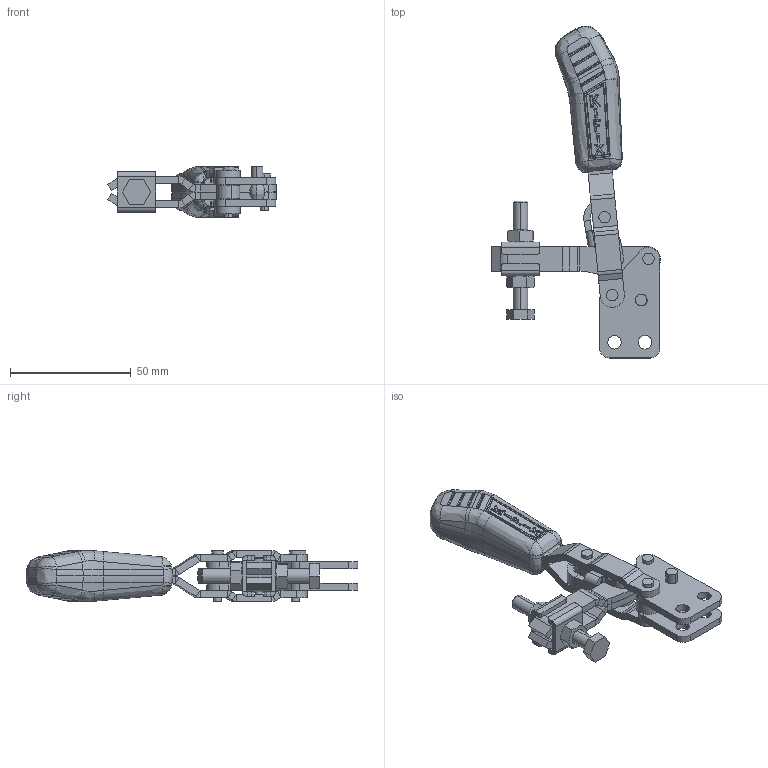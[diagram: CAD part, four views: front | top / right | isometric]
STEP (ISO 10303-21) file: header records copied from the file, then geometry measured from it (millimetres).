
FILE_DESCRIPTION (( 'STEP AP203' ), '1' );
FILE_NAME ('KF-012 RB.STEP', '2014-07-28T13:32:51', ( 'Ricardo' ), ( '' ), 'SwSTEP 2.0', 'SolidWorks 2013', '' );
FILE_SCHEMA (( 'CONFIG_CONTROL_DESIGN' ));
Length unit declared in the file: millimetre
Products named in the file (14): KF-012 RB; 06.50011; 06.50012; 05.20007; 04.20004; 02.11009; 11.50001; 01.10120; 12.50002; 03.13007_Direita; 07.60005; 03.13007_Esquerda; 14.10004; 04.10004
Assembly tree (20 placements, depth 2):
  KF-012 RB
    02.11009  x2
    01.10120  x2
    03.13007_Direita
    03.13007_Esquerda
    04.10004
    06.50011  x2
    06.50012  x2
    05.20007  x2
    04.20004
    11.50001  x2
    12.50002
    07.60005
    14.10004  x2
Bounding box: 69.99 x 137.56 x 21.21 mm (x, y, z)
Volume: 39122.3 mm3; surface area: 28057.9 mm2
Topology: 20 solids, 20 shells, 1095 faces, 2671 edges, 1635 vertices
Faces by surface type: plane 371, cylinder 353, bspline 273, sphere 50, cone 44, torus 4
Entity records: 36117 total; most frequent: CARTESIAN_POINT 14814, ORIENTED_EDGE 4626, DIRECTION 3368, EDGE_CURVE 2313, VERTEX_POINT 1427, AXIS2_PLACEMENT_3D 1248, EDGE_LOOP 992, ADVANCED_FACE 933
